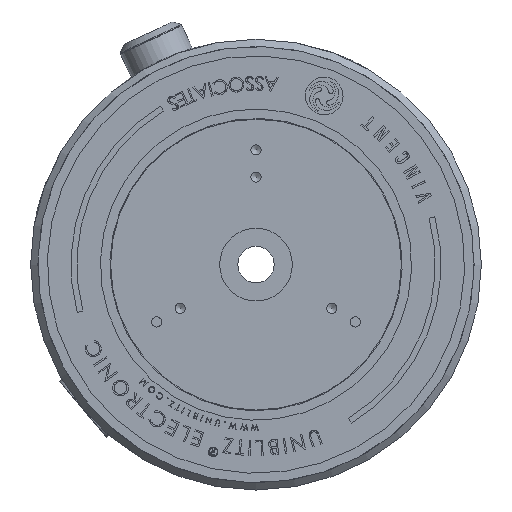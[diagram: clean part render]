
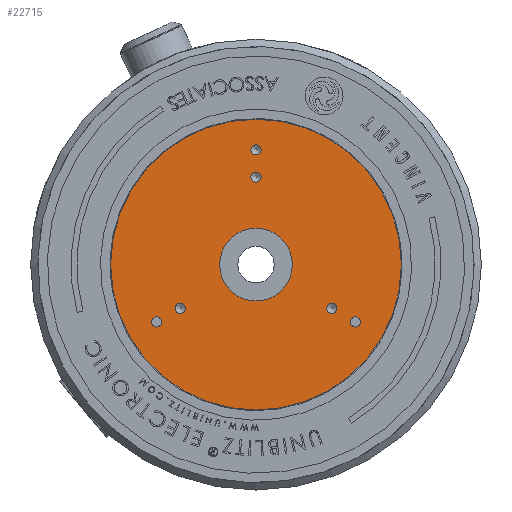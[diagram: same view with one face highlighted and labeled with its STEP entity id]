
A CAD part, front view. The second image highlights one B-rep face of the part: STEP entity #22715.
In plain terms, the highlighted planar face has unit normal (0, -1, 0).
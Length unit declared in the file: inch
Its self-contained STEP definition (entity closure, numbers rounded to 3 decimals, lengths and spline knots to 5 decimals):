
#421 = CIRCLE ( 'NONE', #20826, 0.035 ) ;
#536 = ORIENTED_EDGE ( 'NONE', *, *, #51142, .F. ) ;
#2988 = DIRECTION ( 'NONE',  ( 0., -1., 0. ) ) ;
#4535 = CARTESIAN_POINT ( 'NONE',  ( 0., 0., 0.602 ) ) ;
#4903 = AXIS2_PLACEMENT_3D ( 'NONE', #4535, #18346, #9108 ) ;
#5232 = AXIS2_PLACEMENT_3D ( 'NONE', #40113, #54874, #55080 ) ;
#5303 = CARTESIAN_POINT ( 'NONE',  ( 0.68329, 0., -0.3945 ) ) ;
#5376 = CIRCLE ( 'NONE', #9264, 0.035 ) ;
#5443 = EDGE_LOOP ( 'NONE', ( #50513 ) ) ;
#5516 = FACE_BOUND ( 'NONE', #5443, .T. ) ;
#6545 = AXIS2_PLACEMENT_3D ( 'NONE', #39928, #2988, #60068 ) ;
#8145 = CARTESIAN_POINT ( 'NONE',  ( 0., 0., 0.789 ) ) ;
#8194 = EDGE_LOOP ( 'NONE', ( #24095 ) ) ;
#9108 = DIRECTION ( 'NONE',  ( 0., 0., -1. ) ) ;
#9264 = AXIS2_PLACEMENT_3D ( 'NONE', #61696, #32390, #61284 ) ;
#9355 = EDGE_LOOP ( 'NONE', ( #536 ) ) ;
#10029 = FACE_BOUND ( 'NONE', #14240, .T. ) ;
#11635 = CARTESIAN_POINT ( 'NONE',  ( 0., 0., -1. ) ) ;
#13582 = ORIENTED_EDGE ( 'NONE', *, *, #49073, .F. ) ;
#14240 = EDGE_LOOP ( 'NONE', ( #26153 ) ) ;
#17087 = CIRCLE ( 'NONE', #45007, 0.035 ) ;
#17973 = CARTESIAN_POINT ( 'NONE',  ( 0., 0., 0. ) ) ;
#18141 = EDGE_LOOP ( 'NONE', ( #13582 ) ) ;
#18258 = FACE_BOUND ( 'NONE', #18141, .T. ) ;
#18346 = DIRECTION ( 'NONE',  ( 0., -1., 0. ) ) ;
#18989 = ORIENTED_EDGE ( 'NONE', *, *, #42482, .F. ) ;
#19094 = ORIENTED_EDGE ( 'NONE', *, *, #36290, .T. ) ;
#19226 = EDGE_CURVE ( 'NONE', #34226, #34226, #17087, .T. ) ;
#20475 = FACE_BOUND ( 'NONE', #8194, .T. ) ;
#20540 = CARTESIAN_POINT ( 'NONE',  ( -0.52135, 0., -0.301 ) ) ;
#20826 = AXIS2_PLACEMENT_3D ( 'NONE', #20540, #39327, #34717 ) ;
#21983 = FACE_BOUND ( 'NONE', #38689, .T. ) ;
#22245 = CARTESIAN_POINT ( 'NONE',  ( -0.52135, 0., -0.336 ) ) ;
#22715 = ADVANCED_FACE ( 'NONE', ( #30956, #21983, #10029, #18258, #5516, #46598, #27957, #20475 ), #25923, .F. ) ;
#23449 = CARTESIAN_POINT ( 'NONE',  ( 0., 0., 0.567 ) ) ;
#24095 = ORIENTED_EDGE ( 'NONE', *, *, #40046, .F. ) ;
#25923 = PLANE ( 'NONE',  #5232 ) ;
#26153 = ORIENTED_EDGE ( 'NONE', *, *, #35016, .F. ) ;
#26686 = VERTEX_POINT ( 'NONE', #11635 ) ;
#27021 = CARTESIAN_POINT ( 'NONE',  ( 0.52135, 0., -0.336 ) ) ;
#27347 = DIRECTION ( 'NONE',  ( 0., 0., -1. ) ) ;
#27438 = CARTESIAN_POINT ( 'NONE',  ( 0., 0., 0.754 ) ) ;
#27957 = FACE_BOUND ( 'NONE', #9355, .T. ) ;
#30018 = CIRCLE ( 'NONE', #39835, 0.035 ) ;
#30956 = FACE_OUTER_BOUND ( 'NONE', #60887, .T. ) ;
#32390 = DIRECTION ( 'NONE',  ( 0., -1., 0. ) ) ;
#32836 = AXIS2_PLACEMENT_3D ( 'NONE', #17973, #55881, #27347 ) ;
#33905 = DIRECTION ( 'NONE',  ( 0., 0., -1. ) ) ;
#34226 = VERTEX_POINT ( 'NONE', #38554 ) ;
#34717 = DIRECTION ( 'NONE',  ( 0., 0., -1. ) ) ;
#35016 = EDGE_CURVE ( 'NONE', #54247, #54247, #56131, .T. ) ;
#35934 = CIRCLE ( 'NONE', #6545, 1. ) ;
#36290 = EDGE_CURVE ( 'NONE', #26686, #26686, #35934, .T. ) ;
#38554 = CARTESIAN_POINT ( 'NONE',  ( 0.68329, 0., -0.4295 ) ) ;
#38689 = EDGE_LOOP ( 'NONE', ( #18989 ) ) ;
#39327 = DIRECTION ( 'NONE',  ( 0., -1., 0. ) ) ;
#39835 = AXIS2_PLACEMENT_3D ( 'NONE', #8145, #41558, #59648 ) ;
#39928 = CARTESIAN_POINT ( 'NONE',  ( 0., 0., 0. ) ) ;
#40046 = EDGE_CURVE ( 'NONE', #55032, #55032, #53807, .T. ) ;
#40113 = CARTESIAN_POINT ( 'NONE',  ( 0., 0., 1. ) ) ;
#41558 = DIRECTION ( 'NONE',  ( 0., -1., 0. ) ) ;
#42482 = EDGE_CURVE ( 'NONE', #50522, #50522, #421, .T. ) ;
#45007 = AXIS2_PLACEMENT_3D ( 'NONE', #5303, #57025, #33905 ) ;
#45384 = CARTESIAN_POINT ( 'NONE',  ( -0.68329, 0., -0.4295 ) ) ;
#46598 = FACE_BOUND ( 'NONE', #60967, .T. ) ;
#47604 = DIRECTION ( 'NONE',  ( 0., -1., 0. ) ) ;
#48346 = CIRCLE ( 'NONE', #4903, 0.035 ) ;
#49073 = EDGE_CURVE ( 'NONE', #49773, #49773, #5376, .T. ) ;
#49762 = CARTESIAN_POINT ( 'NONE',  ( 0., 0., -0.25 ) ) ;
#49773 = VERTEX_POINT ( 'NONE', #27021 ) ;
#50513 = ORIENTED_EDGE ( 'NONE', *, *, #19226, .F. ) ;
#50522 = VERTEX_POINT ( 'NONE', #22245 ) ;
#51142 = EDGE_CURVE ( 'NONE', #60899, #60899, #30018, .T. ) ;
#53807 = CIRCLE ( 'NONE', #32836, 0.25 ) ;
#54247 = VERTEX_POINT ( 'NONE', #45384 ) ;
#54444 = AXIS2_PLACEMENT_3D ( 'NONE', #56967, #47604, #61306 ) ;
#54874 = DIRECTION ( 'NONE',  ( 0., 1., 0. ) ) ;
#55032 = VERTEX_POINT ( 'NONE', #49762 ) ;
#55080 = DIRECTION ( 'NONE',  ( 1., 0., 0. ) ) ;
#55252 = EDGE_CURVE ( 'NONE', #61594, #61594, #48346, .T. ) ;
#55881 = DIRECTION ( 'NONE',  ( 0., -1., 0. ) ) ;
#56131 = CIRCLE ( 'NONE', #54444, 0.035 ) ;
#56967 = CARTESIAN_POINT ( 'NONE',  ( -0.68329, 0., -0.3945 ) ) ;
#57025 = DIRECTION ( 'NONE',  ( 0., -1., 0. ) ) ;
#58114 = ORIENTED_EDGE ( 'NONE', *, *, #55252, .F. ) ;
#59648 = DIRECTION ( 'NONE',  ( 0., 0., -1. ) ) ;
#60068 = DIRECTION ( 'NONE',  ( 0., 0., -1. ) ) ;
#60887 = EDGE_LOOP ( 'NONE', ( #19094 ) ) ;
#60899 = VERTEX_POINT ( 'NONE', #27438 ) ;
#60967 = EDGE_LOOP ( 'NONE', ( #58114 ) ) ;
#61284 = DIRECTION ( 'NONE',  ( 0., 0., -1. ) ) ;
#61306 = DIRECTION ( 'NONE',  ( 0., 0., -1. ) ) ;
#61594 = VERTEX_POINT ( 'NONE', #23449 ) ;
#61696 = CARTESIAN_POINT ( 'NONE',  ( 0.52135, 0., -0.301 ) ) ;
